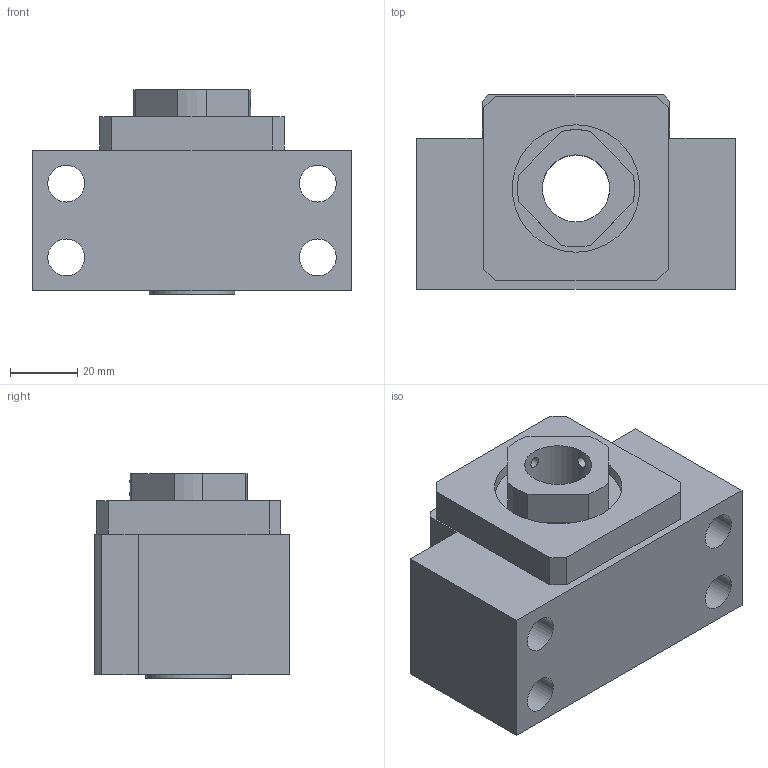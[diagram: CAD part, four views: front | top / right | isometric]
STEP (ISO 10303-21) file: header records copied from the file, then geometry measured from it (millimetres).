
FILE_DESCRIPTION(/* description */ (''),/* implementation_level */ '2;1');
FILE_NAME(/* name */ 'C:\Users\tenki620635\Desktop\官網\圖面\軸承座\3D\setp檔\AK20.stp',/* time_stamp */ '2020-12-18T18:31:59+08:00',/* author */ ('tenki620635'),/* organization */ (''),/* preprocessor_version */ 'ST-DEVELOPER v15.2',/* originating_system */ 'Autodesk Inventor 2014',/* authorisation */ '');
FILE_SCHEMA (('AUTOMOTIVE_DESIGN { 1 0 10303 214 3 1 1 }'));
Length unit declared in the file: millimetre
Products named in the file (1): AK20
Bounding box: 95 x 58 x 61 mm (x, y, z)
Volume: 201244.7 mm3; surface area: 37240.6 mm2
Topology: 1 solids, 1 shells, 55 faces, 132 edges, 89 vertices
Faces by surface type: plane 35, cylinder 20
Full cylindrical faces by diameter (mm): 3.242 x2, 11 x4, 17 x4, 20 x1, 25.5 x2, 27 x1, 38 x2
Entity records: 1667 total; most frequent: CARTESIAN_POINT 390, DIRECTION 254, ORIENTED_EDGE 224, EDGE_CURVE 112, EDGE_LOOP 96, AXIS2_PLACEMENT_3D 92, VERTEX_POINT 86, LINE 70
